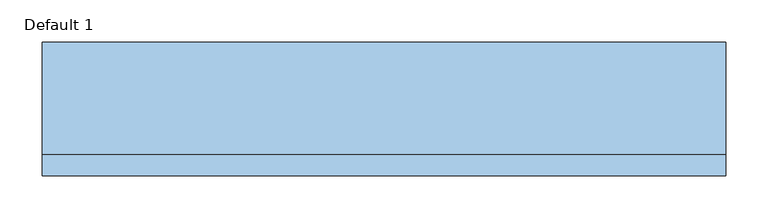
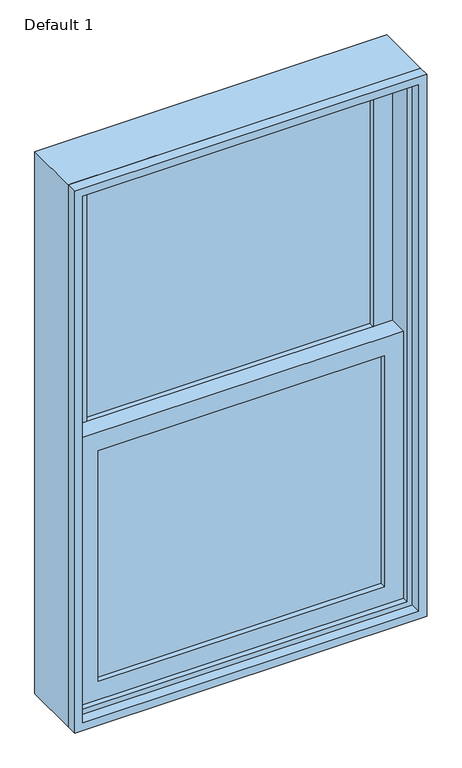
"""IFC4 building model written with IfcOpenShell, lengths in millimetres: window geometry, Planitar-Double-Hung-Single : Default 1."""

from ifc_helpers import new_model, si_unit, frame, origin, place, context, project, spatial, polyline, outline, extrude, source, transform, mapped, element, save


def default_1_18b0f4ae(model_context):
    return source(origin(), model_context, "Body", "SweptSolid", [
        extrude(outline(polyline([(330.2, 0.0), (330.2, -6.35), (-330.2, -6.35), (-330.2, 0.0), (330.2, 0.0)])), frame((0.0, 0.0, 990.6), z_axis=(0.0, 0.0, 1.0), x_axis=(1.0, 0.0, 0.0)), (0.0, 0.0, 1.0), 561.975),
        extrude(outline(polyline([(-330.2, -12.7), (330.2, -12.7), (330.2, -19.05), (-330.2, -19.05), (-330.2, -12.7)])), frame((0.0, 0.0, 990.6), z_axis=(0.0, 0.0, 1.0), x_axis=(1.0, 0.0, 0.0)), (0.0, 0.0, 1.0), 561.975),
        extrude(outline(polyline([(330.2, 44.45), (330.2, 38.1), (-330.2, 38.1), (-330.2, 44.45), (330.2, 44.45)])), frame((0.0, 0.0, 1597.025), z_axis=(0.0, 0.0, 1.0), x_axis=(1.0, 0.0, 0.0)), (0.0, 0.0, 1.0), 561.975),
        extrude(outline(polyline([(-330.2, 31.75), (330.2, 31.75), (330.2, 25.4), (-330.2, 25.4), (-330.2, 31.75)])), frame((0.0, 0.0, 1597.025), z_axis=(0.0, 0.0, 1.0), x_axis=(1.0, 0.0, 0.0)), (0.0, 0.0, 1.0), 561.975),
        extrude(outline(polyline([(1597.025, -374.65), (946.15, -374.65), (946.15, 374.65), (1597.025, 374.65), (1597.025, -374.65)]), holes=[polyline([(1552.575, 330.2), (990.6, 330.2), (990.6, -330.2), (1552.575, -330.2), (1552.575, 330.2)])]), frame((0.0, -31.75, 0.0), z_axis=(0.0, 1.0, 0.0), x_axis=(0.0, 0.0, 1.0)), (0.0, 0.0, 1.0), 44.45),
        extrude(outline(polyline([(2203.45, -374.65), (1552.575, -374.65), (1552.575, 374.65), (2203.45, 374.65), (2203.45, -374.65)]), holes=[polyline([(2159.0, 330.2), (1597.025, 330.2), (1597.025, -330.2), (2159.0, -330.2), (2159.0, 330.2)])]), frame((0.0, 12.7, 0.0), z_axis=(0.0, 1.0, 0.0), x_axis=(0.0, 0.0, 1.0)), (0.0, 0.0, 1.0), 44.45),
        extrude(outline(polyline([(2235.2, -406.4), (914.4, -406.4), (914.4, 406.4), (2235.2, 406.4), (2235.2, -406.4)]), holes=[polyline([(2203.45, 374.65), (946.15, 374.65), (946.15, -374.65), (2203.45, -374.65), (2203.45, 374.65)])]), frame((0.0, -44.45, 0.0), z_axis=(0.0, 1.0, 0.0), x_axis=(0.0, 0.0, 1.0)), (0.0, 0.0, 1.0), 133.35),
        extrude(outline(polyline([(2235.2, 406.4), (2235.2, -406.4), (914.4, -406.4), (914.4, 406.4), (2235.2, 406.4)]), holes=[polyline([(2216.15, 387.35), (933.45, 387.35), (933.45, -387.35), (2216.15, -387.35), (2216.15, 387.35)])]), frame((0.0, -69.85, 0.0), z_axis=(0.0, 1.0, 0.0), x_axis=(0.0, 0.0, 1.0)), (0.0, 0.0, 1.0), 25.4),
    ])


if __name__ == "__main__":
    model = new_model("IFC4")
    model_context = context("Model", 3, world=origin())
    ifc_project = project(units=[si_unit("LENGTHUNIT", "METRE", prefix="MILLI")], contexts=[model_context])
    site = spatial("IfcSite", under=ifc_project)
    building = spatial("IfcBuilding", under=site)
    placement = place(None, origin())
    default_1_shape = default_1_18b0f4ae(model_context)
    element("IfcWindow", 1, ObjectType="Planitar-Double-Hung-Single : Default 1", at=placement, inside=building, context=model_context, shape_type="MappedRepresentation", body=[
        mapped(default_1_shape, transform((0.0, 0.0, 0.0), x_axis=(1.0, 0.0, 0.0), y_axis=(0.0, 1.0, 0.0), z_axis=(0.0, 0.0, 1.0))),
    ])
    save(model, "model.ifc")
